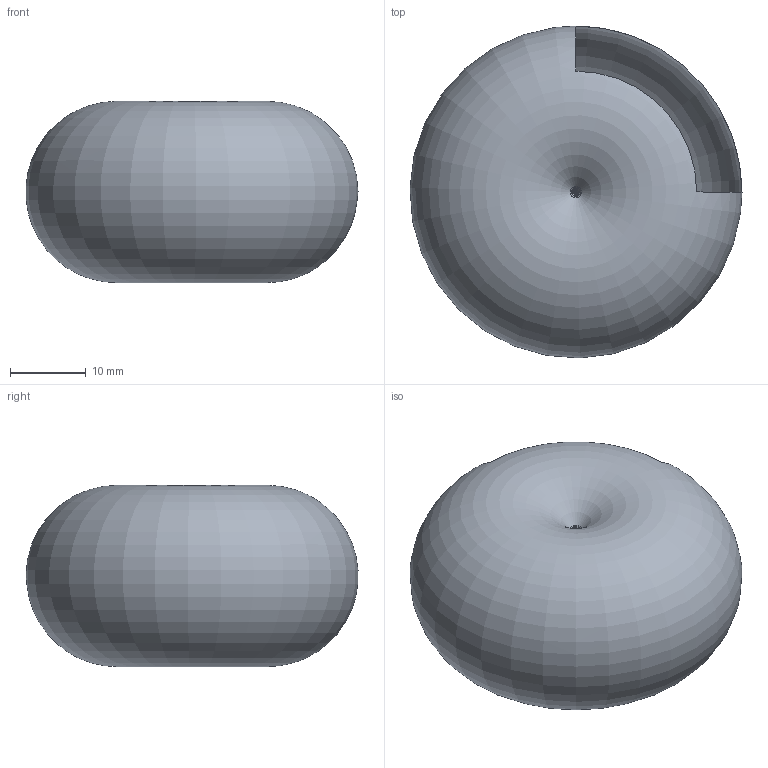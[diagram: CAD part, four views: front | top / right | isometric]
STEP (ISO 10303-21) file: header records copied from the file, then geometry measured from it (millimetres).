
FILE_DESCRIPTION(('BRL-CAD AP214 negative-major spindle torus fixture'),'2;1');
FILE_NAME('ap214_negative_spindle_torus.stp','2026-07-20T00:00:00',('BRL-CAD'),('BRL-CAD'),'','','');
FILE_SCHEMA(('AUTOMOTIVE_DESIGN { 1 0 10303 214 3 1 1 1 }'));
Length unit declared in the file: millimetre
Products named in the file (1): negative_spindle_torus
Bounding box: 43.97 x 43.97 x 24 mm (x, y, z)
Surface area: 4584.8 mm2 (no closed solid volume)
Topology: 0 solids, 1 shells, 1 faces, 6 edges, 5 vertices
Faces by surface type: torus 1
Entity records: 49 total; most frequent: CARTESIAN_POINT 8, VERTEX_POINT 4, DIRECTION 4, AXIS2_PLACEMENT_3D 4, CIRCLE 4, EDGE_CURVE 4, ORIENTED_EDGE 4, EDGE_LOOP 1
